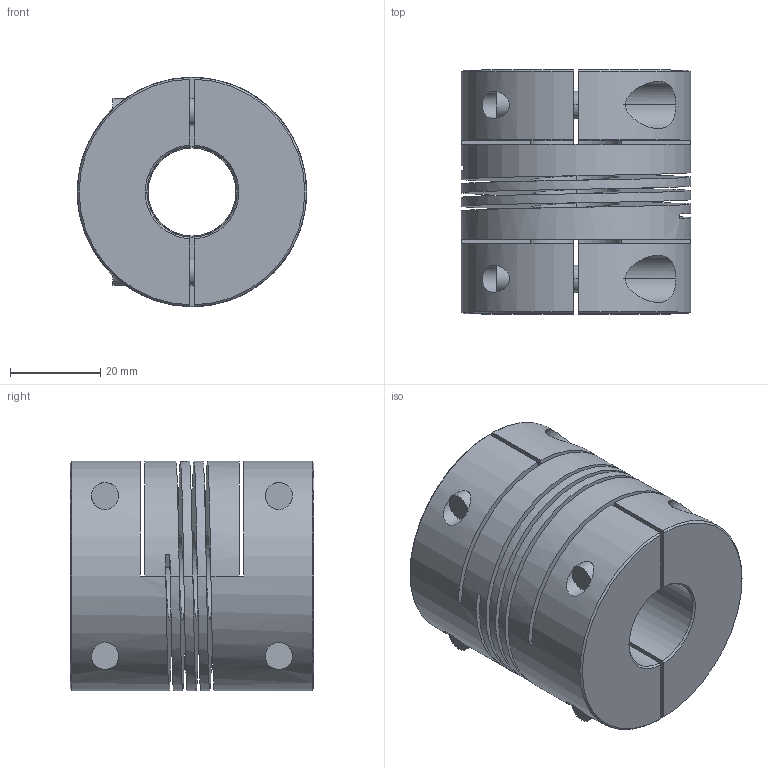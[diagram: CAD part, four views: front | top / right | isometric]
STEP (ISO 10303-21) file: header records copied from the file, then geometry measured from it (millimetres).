
FILE_DESCRIPTION((''),'2;1');
FILE_NAME('821_50','2006-12-13T',('garym'),(''),'PRO/ENGINEER BY PARAMETRIC TECHNOLOGY CORPORATION, 2006010','PRO/ENGINEER BY PARAMETRIC TECHNOLOGY CORPORATION, 2006010','');
FILE_SCHEMA(('CONFIG_CONTROL_DESIGN'));
Length unit declared in the file: millimetre
Products named in the file (1): 821_50
Bounding box: 50.8 x 54 x 50.8 mm (x, y, z)
Volume: 80849.6 mm3; surface area: 34481.1 mm2
Topology: 1 solids, 1 shells, 139 faces, 345 edges, 222 vertices
Faces by surface type: plane 68, cylinder 53, cone 16, bspline 2
Entity records: 5562 total; most frequent: CARTESIAN_POINT 2241, ORIENTED_EDGE 690, DIRECTION 649, EDGE_CURVE 345, AXIS2_PLACEMENT_3D 233, VERTEX_POINT 222, VECTOR 183, LINE 183
